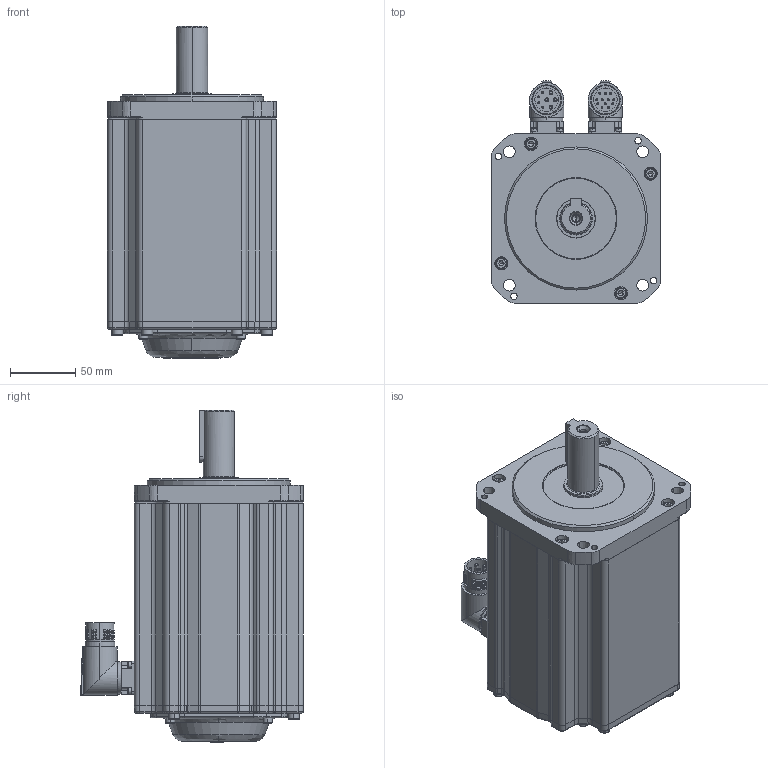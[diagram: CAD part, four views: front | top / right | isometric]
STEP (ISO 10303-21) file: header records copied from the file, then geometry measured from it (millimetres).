
FILE_DESCRIPTION (( 'STEP AP203' ), '1' );
FILE_NAME ('MC20-130-3M20-N252-0¡õPK-NNNN.STEP', '2025-05-04T14:07:04', ( '' ), ( '' ), 'SwSTEP 2.0', 'SolidWorks 2014', '' );
FILE_SCHEMA (( 'CONFIG_CONTROL_DESIGN' ));
Products named in the file (1): MC20-130-3M20-N252-0¡õPK-NNNN
Bounding box: 130 x 171.35 x 255.3 mm (x, y, z)
Volume: 2884617.7 mm3; surface area: 287174.3 mm2
Topology: 28 solids, 28 shells, 2024 faces, 4803 edges, 2863 vertices
Faces by surface type: plane 735, cylinder 568, cone 357, bspline 204, torus 148, sphere 12
Entity records: 62226 total; most frequent: CARTESIAN_POINT 16865, DIRECTION 9530, ORIENTED_EDGE 9382, EDGE_CURVE 4691, AXIS2_PLACEMENT_3D 3694, VERTEX_POINT 2863, EDGE_LOOP 2270, LINE 2142
